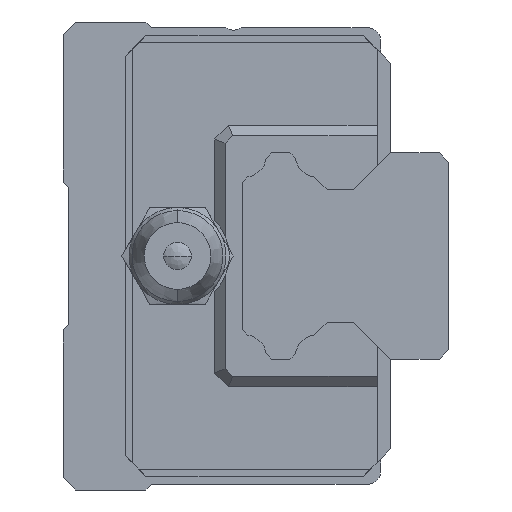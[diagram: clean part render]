
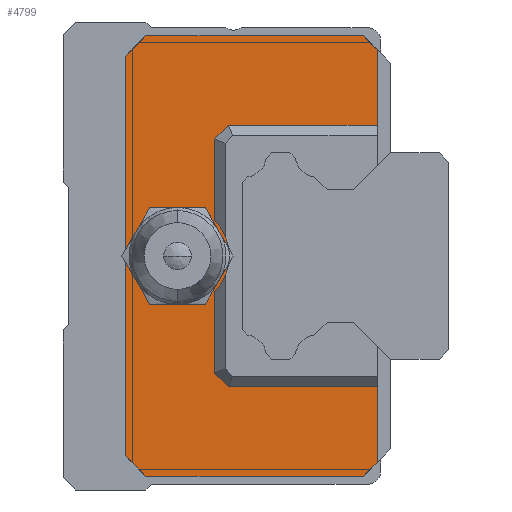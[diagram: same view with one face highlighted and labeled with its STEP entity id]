
A CAD part, left-side view. The second image highlights one B-rep face of the part: STEP entity #4799.
In plain terms, the highlighted planar face has unit normal (-1, 0, 0).
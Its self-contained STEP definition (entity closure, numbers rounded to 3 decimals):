
#7 = EDGE_CURVE ( 'NONE', #4608, #6916, #3087, .T. ) ;
#39 = VECTOR ( 'NONE', #5939, 1000. ) ;
#42 = AXIS2_PLACEMENT_3D ( 'NONE', #3191, #4245, #5949 ) ;
#49 = VECTOR ( 'NONE', #4442, 1000. ) ;
#74 = ORIENTED_EDGE ( 'NONE', *, *, #4368, .F. ) ;
#90 = CARTESIAN_POINT ( 'NONE',  ( 33.7, 6.2, -16. ) ) ;
#211 = VERTEX_POINT ( 'NONE', #5674 ) ;
#253 = CARTESIAN_POINT ( 'NONE',  ( 33.7, 17., 2.604 ) ) ;
#298 = DIRECTION ( 'NONE',  ( 0., 0., -1. ) ) ;
#323 = VECTOR ( 'NONE', #7183, 1000. ) ;
#327 = CARTESIAN_POINT ( 'NONE',  ( 33.7, 17., 8.5 ) ) ;
#335 = ORIENTED_EDGE ( 'NONE', *, *, #5285, .F. ) ;
#345 = DIRECTION ( 'NONE',  ( -1., 0., 0. ) ) ;
#382 = VERTEX_POINT ( 'NONE', #6954 ) ;
#396 = VECTOR ( 'NONE', #3850, 1000. ) ;
#451 = DIRECTION ( 'NONE',  ( 0., 0., -1. ) ) ;
#508 = DIRECTION ( 'NONE',  ( 0., 0., -1. ) ) ;
#541 = CARTESIAN_POINT ( 'NONE',  ( 33.7, 4.7, 0. ) ) ;
#574 = CARTESIAN_POINT ( 'NONE',  ( 33.7, 17., 0. ) ) ;
#606 = VECTOR ( 'NONE', #5093, 1000. ) ;
#611 = DIRECTION ( 'NONE',  ( 0., 1., 0. ) ) ;
#678 = DIRECTION ( 'NONE',  ( 0., 0., -1. ) ) ;
#769 = VERTEX_POINT ( 'NONE', #7279 ) ;
#774 = CARTESIAN_POINT ( 'NONE',  ( 33.7, 16., -9.5 ) ) ;
#922 = CIRCLE ( 'NONE', #42, 3.751 ) ;
#946 = CARTESIAN_POINT ( 'NONE',  ( 33.7, 17., -2.604 ) ) ;
#997 = VECTOR ( 'NONE', #7269, 1000. ) ;
#1053 = VECTOR ( 'NONE', #7069, 1000. ) ;
#1162 = CARTESIAN_POINT ( 'NONE',  ( 33.7, 22., -16. ) ) ;
#1181 = VERTEX_POINT ( 'NONE', #2606 ) ;
#1278 = ORIENTED_EDGE ( 'NONE', *, *, #4957, .F. ) ;
#1303 = EDGE_CURVE ( 'NONE', #6964, #211, #6450, .T. ) ;
#1312 = CARTESIAN_POINT ( 'NONE',  ( 33.7, 4.7, -9.5 ) ) ;
#1384 = LINE ( 'NONE', #774, #5659 ) ;
#1409 = CARTESIAN_POINT ( 'NONE',  ( 33.7, 19.7, 0. ) ) ;
#1532 = VECTOR ( 'NONE', #451, 1000. ) ;
#1560 = VERTEX_POINT ( 'NONE', #2979 ) ;
#1574 = CARTESIAN_POINT ( 'NONE',  ( 33.7, 5.2, 0. ) ) ;
#1606 = LINE ( 'NONE', #3305, #49 ) ;
#1613 = VERTEX_POINT ( 'NONE', #2292 ) ;
#1662 = AXIS2_PLACEMENT_3D ( 'NONE', #1409, #6486, #4801 ) ;
#1674 = CARTESIAN_POINT ( 'NONE',  ( 33.7, 23.5, -14.5 ) ) ;
#1736 = ORIENTED_EDGE ( 'NONE', *, *, #3898, .F. ) ;
#1777 = VERTEX_POINT ( 'NONE', #1674 ) ;
#1954 = AXIS2_PLACEMENT_3D ( 'NONE', #541, #4610, #7418 ) ;
#2012 = VERTEX_POINT ( 'NONE', #5147 ) ;
#2030 = EDGE_CURVE ( 'NONE', #2012, #3794, #7271, .T. ) ;
#2052 = CARTESIAN_POINT ( 'NONE',  ( 33.7, 4.7, -16. ) ) ;
#2133 = CARTESIAN_POINT ( 'NONE',  ( 33.7, 23.5, 14.5 ) ) ;
#2179 = DIRECTION ( 'NONE',  ( 0., 0., -1. ) ) ;
#2291 = CARTESIAN_POINT ( 'NONE',  ( 33.7, 22., 16. ) ) ;
#2292 = CARTESIAN_POINT ( 'NONE',  ( 33.7, 19.7, -2. ) ) ;
#2299 = ORIENTED_EDGE ( 'NONE', *, *, #2503, .F. ) ;
#2375 = LINE ( 'NONE', #5012, #6477 ) ;
#2386 = CIRCLE ( 'NONE', #1662, 2. ) ;
#2445 = LINE ( 'NONE', #2052, #6721 ) ;
#2503 = EDGE_CURVE ( 'NONE', #1560, #3301, #5094, .T. ) ;
#2514 = DIRECTION ( 'NONE',  ( 0., -1., 0. ) ) ;
#2596 = VERTEX_POINT ( 'NONE', #946 ) ;
#2606 = CARTESIAN_POINT ( 'NONE',  ( 33.7, 17., -8.5 ) ) ;
#2735 = VERTEX_POINT ( 'NONE', #1162 ) ;
#2759 = EDGE_LOOP ( 'NONE', ( #2299, #335, #4927, #2922, #6214, #4454, #3118, #1736, #4248, #5837, #6356, #7024, #1278, #2832, #3103, #7277 ) ) ;
#2832 = ORIENTED_EDGE ( 'NONE', *, *, #5117, .F. ) ;
#2916 = ORIENTED_EDGE ( 'NONE', *, *, #5869, .F. ) ;
#2922 = ORIENTED_EDGE ( 'NONE', *, *, #3747, .F. ) ;
#2979 = CARTESIAN_POINT ( 'NONE',  ( 33.7, 16., 9.5 ) ) ;
#3087 = LINE ( 'NONE', #1574, #1532 ) ;
#3088 = CARTESIAN_POINT ( 'NONE',  ( 33.7, 17., 8.5 ) ) ;
#3098 = EDGE_CURVE ( 'NONE', #3301, #5535, #4021, .T. ) ;
#3103 = ORIENTED_EDGE ( 'NONE', *, *, #5503, .F. ) ;
#3118 = ORIENTED_EDGE ( 'NONE', *, *, #7433, .F. ) ;
#3155 = VECTOR ( 'NONE', #2514, 1000. ) ;
#3191 = CARTESIAN_POINT ( 'NONE',  ( 33.7, 19.7, 0. ) ) ;
#3212 = CARTESIAN_POINT ( 'NONE',  ( 33.7, 16., -9.5 ) ) ;
#3292 = CARTESIAN_POINT ( 'NONE',  ( 33.7, 5.2, 9.5 ) ) ;
#3301 = VERTEX_POINT ( 'NONE', #327 ) ;
#3305 = CARTESIAN_POINT ( 'NONE',  ( 33.7, 23.5, 0. ) ) ;
#3365 = VERTEX_POINT ( 'NONE', #3212 ) ;
#3393 = VECTOR ( 'NONE', #508, 1000. ) ;
#3470 = CARTESIAN_POINT ( 'NONE',  ( 33.7, 4.7, 9.5 ) ) ;
#3628 = LINE ( 'NONE', #3470, #5930 ) ;
#3668 = VECTOR ( 'NONE', #678, 1000. ) ;
#3696 = EDGE_CURVE ( 'NONE', #3365, #382, #7080, .T. ) ;
#3747 = EDGE_CURVE ( 'NONE', #211, #4608, #7425, .T. ) ;
#3794 = VERTEX_POINT ( 'NONE', #90 ) ;
#3850 = DIRECTION ( 'NONE',  ( 0., -0.707, 0.707 ) ) ;
#3897 = CARTESIAN_POINT ( 'NONE',  ( 33.7, 22., 16. ) ) ;
#3898 = EDGE_CURVE ( 'NONE', #2735, #1777, #5876, .T. ) ;
#4021 = LINE ( 'NONE', #574, #3668 ) ;
#4077 = EDGE_CURVE ( 'NONE', #6938, #6964, #6603, .T. ) ;
#4090 = EDGE_CURVE ( 'NONE', #382, #2012, #6429, .T. ) ;
#4245 = DIRECTION ( 'NONE',  ( 1., 0., 0. ) ) ;
#4248 = ORIENTED_EDGE ( 'NONE', *, *, #6324, .F. ) ;
#4368 = EDGE_CURVE ( 'NONE', #769, #1613, #2386, .T. ) ;
#4442 = DIRECTION ( 'NONE',  ( 0., 0., 1. ) ) ;
#4454 = ORIENTED_EDGE ( 'NONE', *, *, #4077, .F. ) ;
#4531 = CARTESIAN_POINT ( 'NONE',  ( 33.7, 5.2, -15. ) ) ;
#4584 = PLANE ( 'NONE',  #1954 ) ;
#4608 = VERTEX_POINT ( 'NONE', #5583 ) ;
#4610 = DIRECTION ( 'NONE',  ( 1., 0., 0. ) ) ;
#4710 = FACE_OUTER_BOUND ( 'NONE', #2759, .T. ) ;
#4799 = ADVANCED_FACE ( 'NONE', ( #4710, #6032 ), #4584, .F. ) ;
#4801 = DIRECTION ( 'NONE',  ( 0., 0., -1. ) ) ;
#4927 = ORIENTED_EDGE ( 'NONE', *, *, #7, .F. ) ;
#4957 = EDGE_CURVE ( 'NONE', #1181, #3365, #1384, .T. ) ;
#4972 = EDGE_LOOP ( 'NONE', ( #2916, #74 ) ) ;
#5012 = CARTESIAN_POINT ( 'NONE',  ( 33.7, 17., 0. ) ) ;
#5093 = DIRECTION ( 'NONE',  ( 0., 0.707, -0.707 ) ) ;
#5094 = LINE ( 'NONE', #3088, #1053 ) ;
#5117 = EDGE_CURVE ( 'NONE', #2596, #1181, #2375, .T. ) ;
#5147 = CARTESIAN_POINT ( 'NONE',  ( 33.7, 5.2, -15. ) ) ;
#5285 = EDGE_CURVE ( 'NONE', #6916, #1560, #3628, .T. ) ;
#5393 = DIRECTION ( 'NONE',  ( 0., -0.707, -0.707 ) ) ;
#5412 = DIRECTION ( 'NONE',  ( 0., 1., 0. ) ) ;
#5503 = EDGE_CURVE ( 'NONE', #5535, #2596, #922, .T. ) ;
#5535 = VERTEX_POINT ( 'NONE', #253 ) ;
#5583 = CARTESIAN_POINT ( 'NONE',  ( 33.7, 5.2, 15. ) ) ;
#5630 = CARTESIAN_POINT ( 'NONE',  ( 33.7, 4.7, 16. ) ) ;
#5659 = VECTOR ( 'NONE', #5393, 1000. ) ;
#5674 = CARTESIAN_POINT ( 'NONE',  ( 33.7, 6.2, 16. ) ) ;
#5837 = ORIENTED_EDGE ( 'NONE', *, *, #2030, .F. ) ;
#5869 = EDGE_CURVE ( 'NONE', #1613, #769, #6278, .T. ) ;
#5876 = LINE ( 'NONE', #6518, #323 ) ;
#5930 = VECTOR ( 'NONE', #611, 1000. ) ;
#5939 = DIRECTION ( 'NONE',  ( 0., -0.707, -0.707 ) ) ;
#5949 = DIRECTION ( 'NONE',  ( 0., 0., -1. ) ) ;
#6032 = FACE_BOUND ( 'NONE', #4972, .T. ) ;
#6214 = ORIENTED_EDGE ( 'NONE', *, *, #1303, .F. ) ;
#6278 = CIRCLE ( 'NONE', #6497, 2. ) ;
#6324 = EDGE_CURVE ( 'NONE', #3794, #2735, #2445, .T. ) ;
#6356 = ORIENTED_EDGE ( 'NONE', *, *, #4090, .F. ) ;
#6429 = LINE ( 'NONE', #6812, #3393 ) ;
#6450 = LINE ( 'NONE', #5630, #997 ) ;
#6477 = VECTOR ( 'NONE', #2179, 1000. ) ;
#6486 = DIRECTION ( 'NONE',  ( -1., 0., 0. ) ) ;
#6497 = AXIS2_PLACEMENT_3D ( 'NONE', #7189, #345, #298 ) ;
#6518 = CARTESIAN_POINT ( 'NONE',  ( 33.7, 23.5, -14.5 ) ) ;
#6603 = LINE ( 'NONE', #3897, #396 ) ;
#6721 = VECTOR ( 'NONE', #5412, 1000. ) ;
#6812 = CARTESIAN_POINT ( 'NONE',  ( 33.7, 5.2, 0. ) ) ;
#6916 = VERTEX_POINT ( 'NONE', #3292 ) ;
#6938 = VERTEX_POINT ( 'NONE', #2133 ) ;
#6954 = CARTESIAN_POINT ( 'NONE',  ( 33.7, 5.2, -9.5 ) ) ;
#6964 = VERTEX_POINT ( 'NONE', #2291 ) ;
#7024 = ORIENTED_EDGE ( 'NONE', *, *, #3696, .F. ) ;
#7069 = DIRECTION ( 'NONE',  ( 0., 0.707, -0.707 ) ) ;
#7080 = LINE ( 'NONE', #1312, #3155 ) ;
#7087 = CARTESIAN_POINT ( 'NONE',  ( 33.7, 4.7, 14.5 ) ) ;
#7183 = DIRECTION ( 'NONE',  ( 0., 0.707, 0.707 ) ) ;
#7189 = CARTESIAN_POINT ( 'NONE',  ( 33.7, 19.7, 0. ) ) ;
#7269 = DIRECTION ( 'NONE',  ( 0., -1., 0. ) ) ;
#7271 = LINE ( 'NONE', #4531, #606 ) ;
#7277 = ORIENTED_EDGE ( 'NONE', *, *, #3098, .F. ) ;
#7279 = CARTESIAN_POINT ( 'NONE',  ( 33.7, 19.7, 2. ) ) ;
#7418 = DIRECTION ( 'NONE',  ( 0., 0., -1. ) ) ;
#7425 = LINE ( 'NONE', #7087, #39 ) ;
#7433 = EDGE_CURVE ( 'NONE', #1777, #6938, #1606, .T. ) ;
